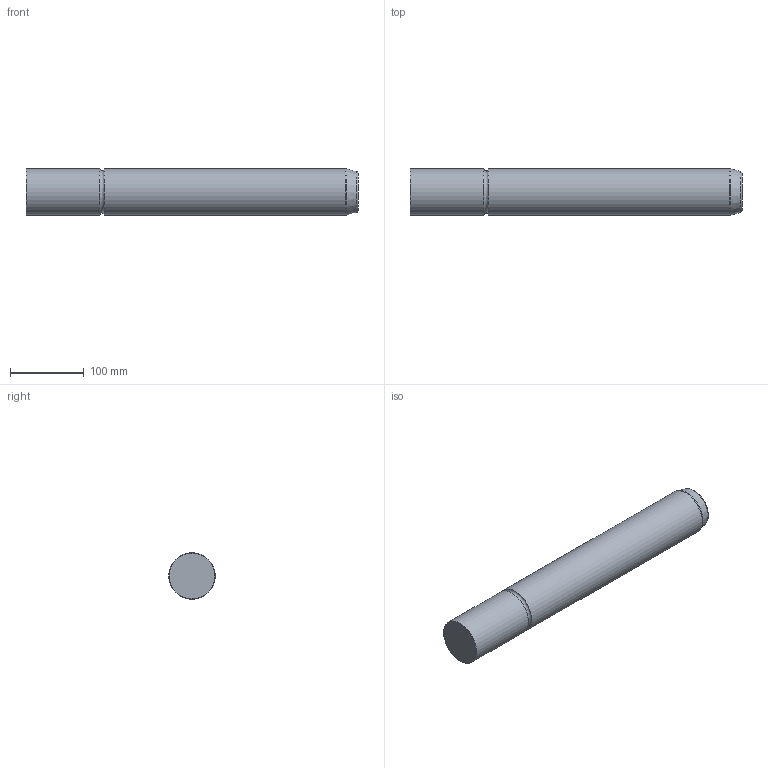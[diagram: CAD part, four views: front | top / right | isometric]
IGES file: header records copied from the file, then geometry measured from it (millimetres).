
Global section: file name: CS63450.ipt; native system: Autodesk Inventor 2021; preprocessor: unknown; author: SM; date: 20211220.135911; units: millimetre
Bounding box: 450 x 63 x 63 mm (x, y, z)
Volume: 1393268.1 mm3; surface area: 94817.7 mm2
Topology: 1 solids, 1 shells, 9 faces, 21 edges, 14 vertices
Faces by surface type: revolution 3, cone 2, cylinder 2, plane 2
Full cylindrical faces by diameter (mm): 63 x2
